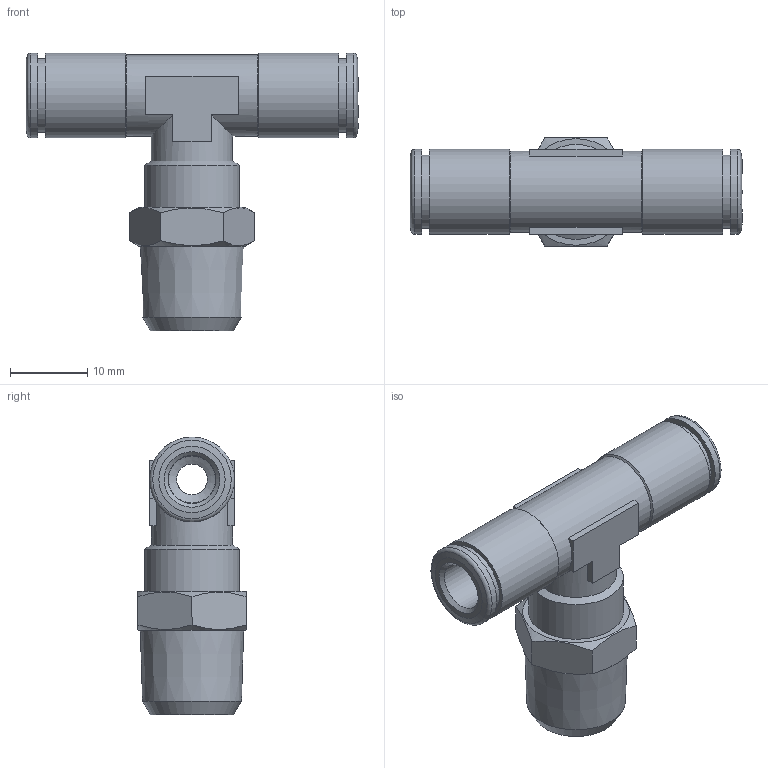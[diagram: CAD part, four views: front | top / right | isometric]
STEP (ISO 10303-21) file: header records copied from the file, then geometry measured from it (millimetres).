
FILE_DESCRIPTION(/* description */ (''),/* implementation_level */ '2;1');
FILE_NAME(/* name */ '202054-ES-I1-N2_STX020K_6_R14_05.07.16',/* time_stamp */ '2016-07-05T09:10:21+02:00',/* author */ (''),/* organization */ (''),/* preprocessor_version */ 'ST-DEVELOPER v16.5',/* originating_system */ 'HiCAD 2016 2101.0 Build 254',/* authorisation */ '');
FILE_SCHEMA (('AUTOMOTIVE_DESIGN { 1 0 10303 214 1 1 1 1 }'));
Length unit declared in the file: millimetre
Products named in the file (5): Root; 214626-1-N2; R202003-ES-N2; DR6-1_NEU
Assembly tree (4 placements, depth 2):
  Root
    214626-1-N2
    R202003-ES-N2
    DR6-1_NEU
    DR6-1_NEU
Bounding box: 43 x 14 x 36 mm (x, y, z)
Volume: 4844.4 mm3; surface area: 5666.1 mm2
Topology: 4 solids, 4 shells, 100 faces, 215 edges, 132 vertices
Faces by surface type: plane 41, cone 30, cylinder 27, torus 2
Full cylindrical faces by diameter (mm): 4 x1, 5.5 x1, 6 x1, 6.1 x2, 6.2 x2, 7 x1, 8.3 x2, 9 x4, 9.5 x2, 9.6 x2, 10.1 x2, 10.5 x2, 11 x4, 12.3 x1
Entity records: 4665 total; most frequent: CARTESIAN_POINT 1143, DIRECTION 452, PRESENTATION_STYLE_ASSIGNMENT 298, COLOUR_RGB 295, DRAUGHTING_PRE_DEFINED_CURVE_FONT 294, CURVE_STYLE 294, OVER_RIDING_STYLED_ITEM 294, ORIENTED_EDGE 294
